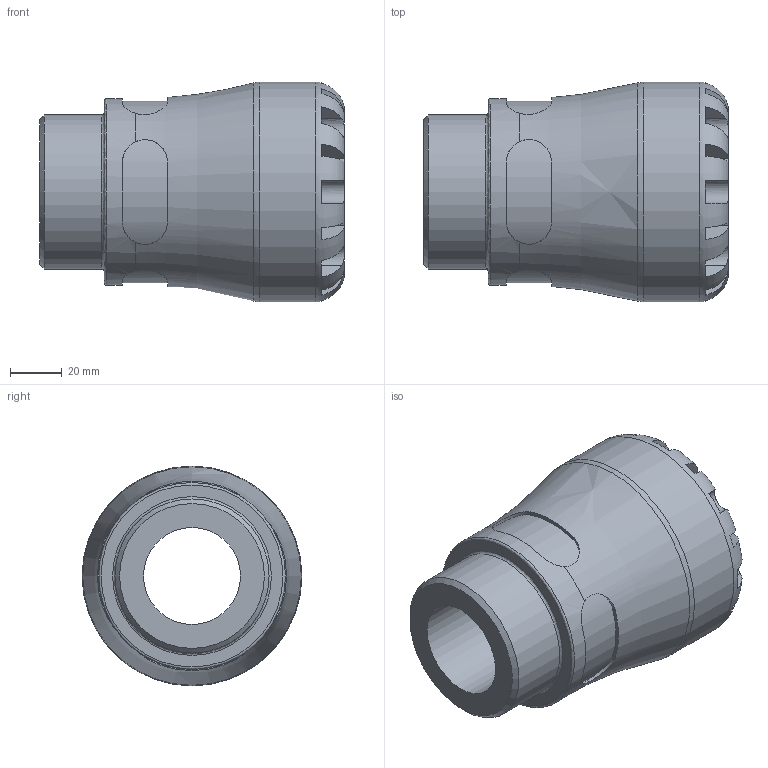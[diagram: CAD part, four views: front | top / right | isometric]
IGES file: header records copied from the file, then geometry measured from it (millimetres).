
Global section: file name: 100200050020_190200050020.ipt; native system: Autodesk Inventor 2015; preprocessor: unknown; author: KIM; date: 20170727.143955; units: millimetre
Bounding box: 118 x 85 x 85 mm (x, y, z)
Volume: 311618.9 mm3; surface area: 53680.7 mm2
Topology: 1 solids, 1 shells, 100 faces, 268 edges, 172 vertices
Faces by surface type: plane 60, revolution 24, cylinder 15, cone 1
Full cylindrical faces by diameter (mm): 59.614 x1, 72.25 x1, 85 x1
